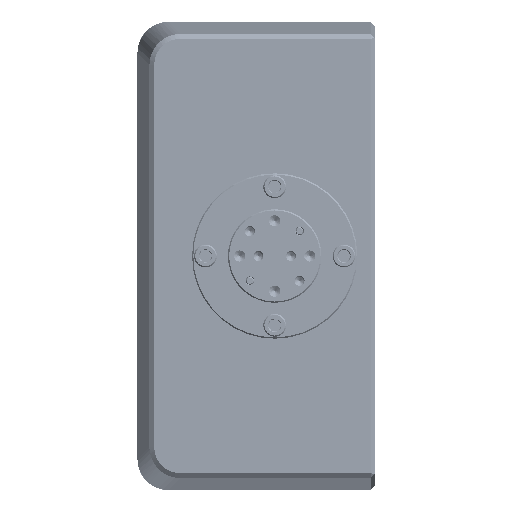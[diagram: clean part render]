
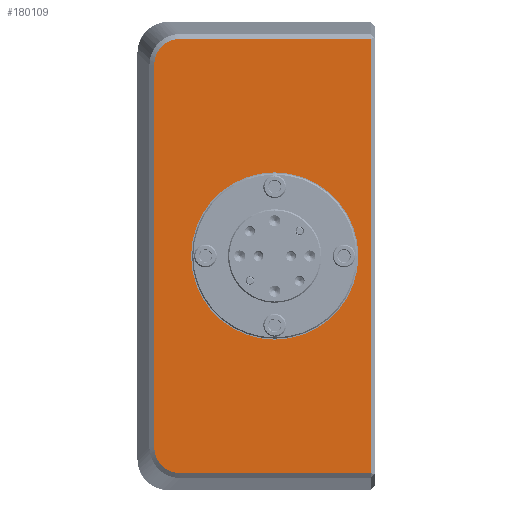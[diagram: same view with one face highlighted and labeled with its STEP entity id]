
A CAD part, left-side view. The second image highlights one B-rep face of the part: STEP entity #180109.
In plain terms, the highlighted planar face has unit normal (-1, 0, 0).
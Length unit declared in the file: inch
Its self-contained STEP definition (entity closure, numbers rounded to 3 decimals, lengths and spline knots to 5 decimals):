
#9679 = CARTESIAN_POINT ( 'NONE',  ( -0.75, 0.78884, 1.63662 ) ) ;
#13126 = DIRECTION ( 'NONE',  ( 1., 0., 0. ) ) ;
#13993 = CARTESIAN_POINT ( 'NONE',  ( -0.75, 0.60616, 1.74008 ) ) ;
#17622 = ORIENTED_EDGE ( 'NONE', *, *, #232385, .T. ) ;
#18800 = CARTESIAN_POINT ( 'NONE',  ( -0.75, 0.81508, -1.53116 ) ) ;
#26639 = CARTESIAN_POINT ( 'NONE',  ( -0.75, 0.81508, 0. ) ) ;
#28964 = AXIS2_PLACEMENT_3D ( 'NONE', #240254, #62929, #130657 ) ;
#37057 = CARTESIAN_POINT ( 'NONE',  ( -0.75, 0.73485, 1.69836 ) ) ;
#41820 = EDGE_CURVE ( 'NONE', #145643, #205270, #108298, .T. ) ;
#48028 = ORIENTED_EDGE ( 'NONE', *, *, #170884, .F. ) ;
#49697 = VERTEX_POINT ( 'NONE', #179003 ) ;
#52824 = ORIENTED_EDGE ( 'NONE', *, *, #216371, .T. ) ;
#59043 = CARTESIAN_POINT ( 'NONE',  ( -0.75, -0.92, 0. ) ) ;
#62082 = PLANE ( 'NONE',  #279675 ) ;
#62929 = DIRECTION ( 'NONE',  ( -1., 0., 0. ) ) ;
#67118 = CARTESIAN_POINT ( 'NONE',  ( -0.75, 0.77336, -1.65985 ) ) ;
#71378 = VECTOR ( 'NONE', #198296, 39.37008 ) ;
#71461 = DIRECTION ( 'NONE',  ( 0., 0., 1. ) ) ;
#76020 = CARTESIAN_POINT ( 'NONE',  ( -0.75, 0.81508, 1.53116 ) ) ;
#87135 = VECTOR ( 'NONE', #220853, 39.37008 ) ;
#87234 = AXIS2_PLACEMENT_3D ( 'NONE', #224339, #93058, #71461 ) ;
#87311 = CARTESIAN_POINT ( 'NONE',  ( -0.75, 0.71162, -1.71384 ) ) ;
#90186 = CARTESIAN_POINT ( 'NONE',  ( -0.75, 0.81508, -1.53116 ) ) ;
#93058 = DIRECTION ( 'NONE',  ( -1., 0., 0. ) ) ;
#95388 = FACE_OUTER_BOUND ( 'NONE', #203788, .T. ) ;
#97670 = CARTESIAN_POINT ( 'NONE',  ( -0.75, 0.80965, 1.58615 ) ) ;
#103363 = CARTESIAN_POINT ( 'NONE',  ( -0.75, 0.66114, 1.73464 ) ) ;
#105560 = LINE ( 'NONE', #282927, #87135 ) ;
#108298 = B_SPLINE_CURVE_WITH_KNOTS ( 'NONE', 3,
 ( #13993, #207260, #103363, #234555, #37057, #188482, #9679, #97670, #273623, #76020 ),
 .UNSPECIFIED., .F., .F.,
 ( 4, 2, 2, 2, 4 ),
 ( 0., 0.25, 0.5, 0.75, 1. ),
 .UNSPECIFIED. ) ;
#108835 = VERTEX_POINT ( 'NONE', #275418 ) ;
#110577 = CARTESIAN_POINT ( 'NONE',  ( -0.75, -0.15, 0.67 ) ) ;
#115054 = EDGE_LOOP ( 'NONE', ( #48028, #146837 ) ) ;
#125988 = ORIENTED_EDGE ( 'NONE', *, *, #236130, .T. ) ;
#130657 = DIRECTION ( 'NONE',  ( 0., 0., 1. ) ) ;
#139922 = VERTEX_POINT ( 'NONE', #18800 ) ;
#141079 = ORIENTED_EDGE ( 'NONE', *, *, #41820, .T. ) ;
#142439 = VECTOR ( 'NONE', #234907, 39.37008 ) ;
#145643 = VERTEX_POINT ( 'NONE', #188791 ) ;
#146837 = ORIENTED_EDGE ( 'NONE', *, *, #204925, .F. ) ;
#147214 = CARTESIAN_POINT ( 'NONE',  ( -0.75, 0., 0. ) ) ;
#149889 = CARTESIAN_POINT ( 'NONE',  ( -0.75, 0., 1.74008 ) ) ;
#164446 = VECTOR ( 'NONE', #282490, 39.37008 ) ;
#164662 = VERTEX_POINT ( 'NONE', #273280 ) ;
#168923 = EDGE_CURVE ( 'NONE', #139922, #108835, #234107, .T. ) ;
#170884 = EDGE_CURVE ( 'NONE', #252365, #49697, #231489, .T. ) ;
#174311 = CARTESIAN_POINT ( 'NONE',  ( -0.75, 0.81508, 1.53116 ) ) ;
#175305 = CARTESIAN_POINT ( 'NONE',  ( -0.75, 0.6337, -1.74008 ) ) ;
#178161 = CARTESIAN_POINT ( 'NONE',  ( -0.75, 0.80964, -1.58614 ) ) ;
#179003 = CARTESIAN_POINT ( 'NONE',  ( -0.75, -0.15, -0.67 ) ) ;
#180109 = ADVANCED_FACE ( 'NONE', ( #95388, #183349 ), #62082, .F. ) ;
#180412 = ORIENTED_EDGE ( 'NONE', *, *, #230364, .T. ) ;
#183349 = FACE_BOUND ( 'NONE', #115054, .T. ) ;
#188482 = CARTESIAN_POINT ( 'NONE',  ( -0.75, 0.77336, 1.65986 ) ) ;
#188791 = CARTESIAN_POINT ( 'NONE',  ( -0.75, 0.60616, 1.74008 ) ) ;
#194089 = CARTESIAN_POINT ( 'NONE',  ( -0.75, 0.60616, -1.74008 ) ) ;
#198296 = DIRECTION ( 'NONE',  ( 0., 0., -1. ) ) ;
#199719 = LINE ( 'NONE', #26639, #71378 ) ;
#202497 = CIRCLE ( 'NONE', #87234, 0.67 ) ;
#203788 = EDGE_LOOP ( 'NONE', ( #275379, #125988, #52824, #17622, #141079, #180412 ) ) ;
#204925 = EDGE_CURVE ( 'NONE', #49697, #252365, #202497, .T. ) ;
#205270 = VERTEX_POINT ( 'NONE', #174311 ) ;
#207260 = CARTESIAN_POINT ( 'NONE',  ( -0.75, 0.63364, 1.74008 ) ) ;
#216371 = EDGE_CURVE ( 'NONE', #164662, #217262, #256593, .T. ) ;
#217262 = VERTEX_POINT ( 'NONE', #280794 ) ;
#220853 = DIRECTION ( 'NONE',  ( 0., -1., 0. ) ) ;
#222844 = CARTESIAN_POINT ( 'NONE',  ( -0.75, 0.78885, -1.63662 ) ) ;
#224339 = CARTESIAN_POINT ( 'NONE',  ( -0.75, -0.15, 0. ) ) ;
#230364 = EDGE_CURVE ( 'NONE', #205270, #139922, #199719, .T. ) ;
#231489 = CIRCLE ( 'NONE', #28964, 0.67 ) ;
#232385 = EDGE_CURVE ( 'NONE', #217262, #145643, #281050, .T. ) ;
#234107 = B_SPLINE_CURVE_WITH_KNOTS ( 'NONE', 3,
 ( #90186, #283503, #178161, #222844, #67118, #266117, #87311, #260423, #175305, #194089 ),
 .UNSPECIFIED., .F., .F.,
 ( 4, 2, 2, 2, 4 ),
 ( 0., 0.25, 0.5, 0.75, 1. ),
 .UNSPECIFIED. ) ;
#234555 = CARTESIAN_POINT ( 'NONE',  ( -0.75, 0.71162, 1.71385 ) ) ;
#234907 = DIRECTION ( 'NONE',  ( 0., 0., 1. ) ) ;
#236130 = EDGE_CURVE ( 'NONE', #108835, #164662, #105560, .T. ) ;
#240254 = CARTESIAN_POINT ( 'NONE',  ( -0.75, -0.15, 0. ) ) ;
#252365 = VERTEX_POINT ( 'NONE', #110577 ) ;
#256593 = LINE ( 'NONE', #59043, #142439 ) ;
#259645 = DIRECTION ( 'NONE',  ( 0., 0., -1. ) ) ;
#260423 = CARTESIAN_POINT ( 'NONE',  ( -0.75, 0.66115, -1.73465 ) ) ;
#266117 = CARTESIAN_POINT ( 'NONE',  ( -0.75, 0.73486, -1.69836 ) ) ;
#273280 = CARTESIAN_POINT ( 'NONE',  ( -0.75, -0.92, -1.74008 ) ) ;
#273623 = CARTESIAN_POINT ( 'NONE',  ( -0.75, 0.81508, 1.5587 ) ) ;
#275379 = ORIENTED_EDGE ( 'NONE', *, *, #168923, .T. ) ;
#275418 = CARTESIAN_POINT ( 'NONE',  ( -0.75, 0.60616, -1.74008 ) ) ;
#279675 = AXIS2_PLACEMENT_3D ( 'NONE', #147214, #13126, #259645 ) ;
#280794 = CARTESIAN_POINT ( 'NONE',  ( -0.75, -0.92, 1.74008 ) ) ;
#281050 = LINE ( 'NONE', #149889, #164446 ) ;
#282490 = DIRECTION ( 'NONE',  ( 0., 1., 0. ) ) ;
#282927 = CARTESIAN_POINT ( 'NONE',  ( -0.75, 0., -1.74008 ) ) ;
#283503 = CARTESIAN_POINT ( 'NONE',  ( -0.75, 0.81508, -1.55864 ) ) ;
